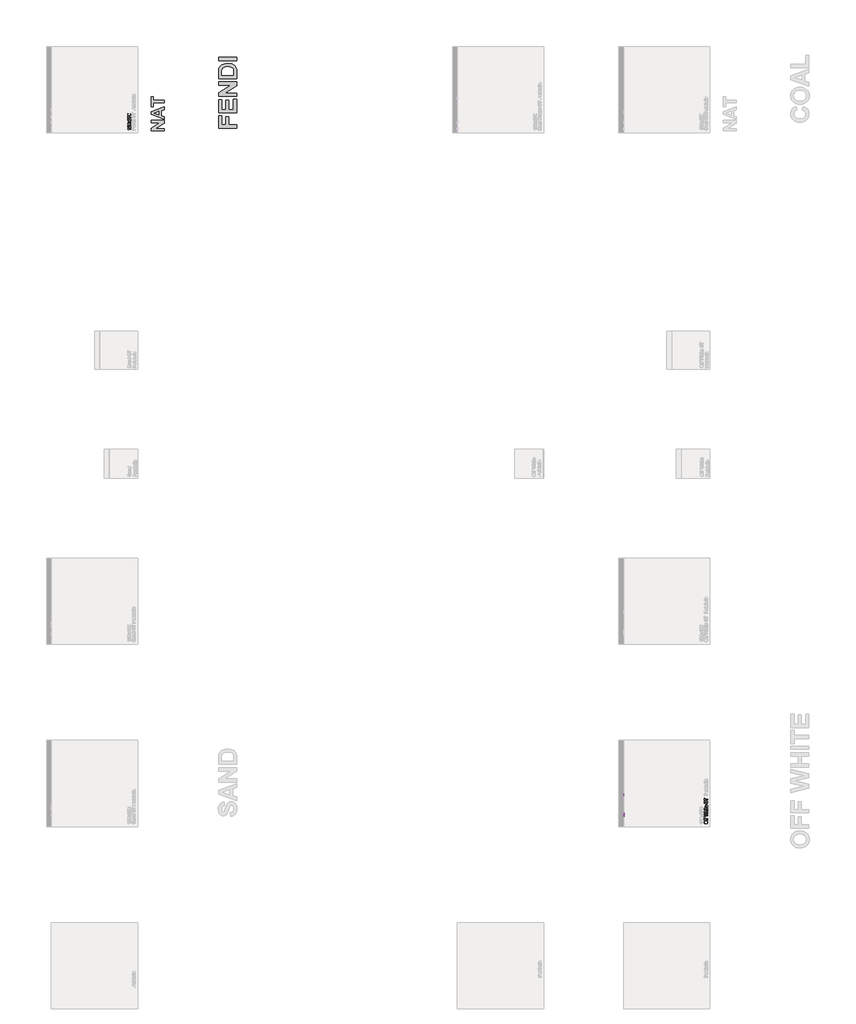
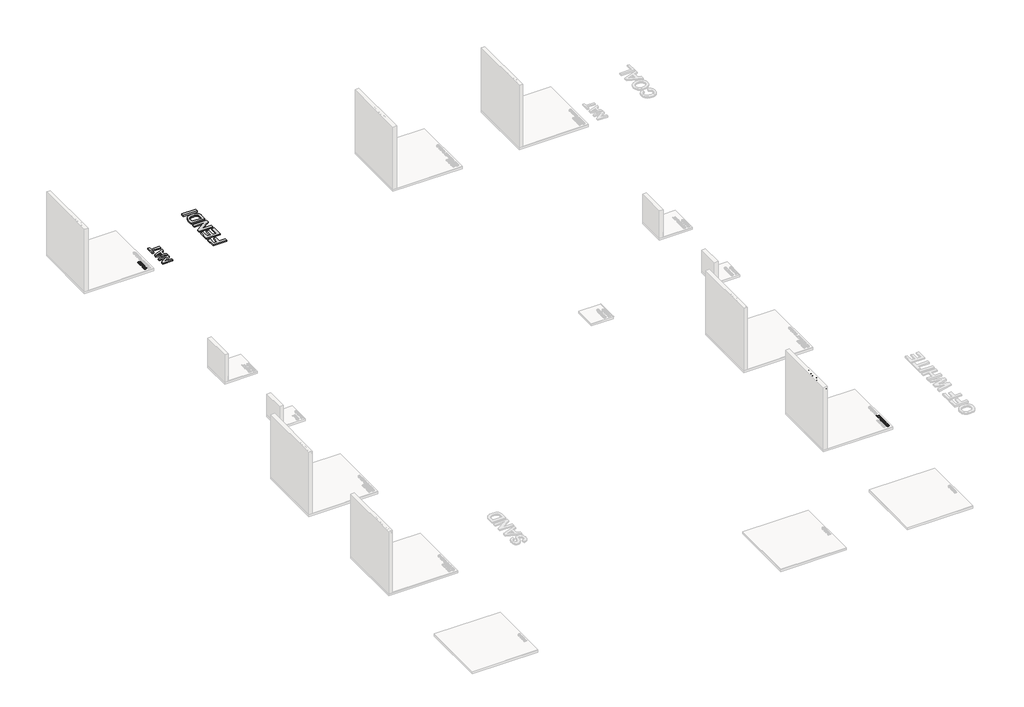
# One storey, part 13 of 19: 7 proxies.
"""IFC4 building model written with IfcOpenShell, lengths in millimetres."""

from ifc_helpers import new_model, si_unit, frame, origin, origin_with_axes, place, context, project, spatial, polyline, outline, extrude, element, save

model = new_model("IFC4")

# Units and contexts
model_context = context("Model", 3, world=origin())
ifc_project = project(units=[si_unit("LENGTHUNIT", "METRE", prefix="MILLI")], contexts=[model_context])

# Site, building, storey
site = spatial("IfcSite", under=ifc_project)
building = spatial("IfcBuilding", under=site)
storey = spatial("IfcBuildingStorey", under=building, Name="PORTOBELLO - SHOWROOM", Elevation=0.0)

# Proxies
placement = place(None, origin())
element("IfcBuildingElementProxy", 1, Name="10mm Arial", ObjectType="10mm Arial", at=placement, inside=storey, context=model_context, shape_type="SweptSolid", body=[
    extrude(outline(polyline([(-6509.7750187, 26132.7257775), (-6509.7750187, 26120.1687387), (-6588.0603073, 26120.1687387), (-6579.5867586, 26108.2738876), (-6573.2469256, 26095.0546612), (-6585.1172513, 26095.0546612), (-6596.8649497, 26113.4610237), (-6610.2313288, 26124.6323736), (-6610.2313288, 26132.7257775), (-6509.7750187, 26132.7257775)])), origin_with_axes(), (0.0, 0.0, 1.0), 20.0),
    extrude(outline(polyline([(-6522.3320575, 26226.9035683), (-6509.7750187, 26226.9035683), (-6509.7750187, 26160.9791147), (-6518.4325083, 26162.3280154), (-6531.7620993, 26169.9676982), (-6546.3179635, 26185.7007848), (-6567.2381863, 26207.3690343), (-6581.4629568, 26212.7768997), (-6592.9776633, 26207.6633399), (-6597.6742901, 26194.3092235), (-6593.0880279, 26180.3910214), (-6580.4083618, 26175.1057834), (-6581.9779916, 26162.5487446), (-6594.1242288, 26165.5929681), (-6602.9963163, 26172.1749901), (-6608.4225757, 26181.9514542), (-6610.2313288, 26194.5790036), (-6608.2202406, 26207.2985236), (-6602.1869759, 26217.0565935), (-6593.173867, 26223.2646022), (-6582.2232463, 26225.3339384), (-6570.3161324, 26223.102121), (-6558.0043483, 26215.6831674), (-6540.7997336, 26197.6937379), (-6528.7209414, 26183.2482382), (-6522.3320575, 26177.5828555), (-6522.3320575, 26226.9035683)])), origin_with_axes(), (0.0, 0.0, 1.0), 20.0),
    extrude(outline(polyline([(-6559.1938334, 26239.4606071), (-6588.0970955, 26243.1516897), (-6604.7621498, 26254.1145732), (-6610.2313288, 26272.4228338), (-6606.9939673, 26287.0890627), (-6597.6620273, 26297.2180803), (-6582.7995947, 26303.1041922), (-6559.1938334, 26305.3850606), (-6530.4131986, 26301.7307661), (-6513.711356, 26290.8046708), (-6509.5818806, 26282.5733112), (-6508.2053888, 26272.4228338), (-6510.5966218, 26259.3752857), (-6517.7703207, 26249.4669973), (-6534.7603375, 26241.9622046), (-6559.1938334, 26239.4606071)]), holes=[polyline([(-6559.2183588, 26252.0176458), (-6539.4661614, 26253.4891738), (-6528.0342284, 26257.9037577), (-6522.5803778, 26264.4765827), (-6520.7624276, 26272.4228338), (-6522.5865092, 26280.3690849), (-6528.0587538, 26286.9419099), (-6539.4968182, 26291.3564938), (-6559.2183588, 26292.8280218), (-6578.5260322, 26291.4055448), (-6590.04687, 26287.1381136), (-6595.7674351, 26280.5775514), (-6597.6742901, 26272.275681), (-6595.9942956, 26264.4152691), (-6590.9543123, 26258.0999615), (-6578.7161046, 26253.5382247), (-6559.2183588, 26252.0176458)])]), origin_with_axes(), (0.0, 0.0, 1.0), 20.0),
    extrude(outline(polyline([(-6509.7750187, 26311.66358), (-6546.8820493, 26338.4944402), (-6583.5476215, 26313.2332098), (-6583.5476215, 26328.2918462), (-6565.8647602, 26340.4810029), (-6557.5506271, 26346.1954366), (-6564.3687068, 26351.1495808), (-6583.5476215, 26365.0309947), (-6583.5476215, 26380.138682), (-6546.8575238, 26353.6021274), (-6509.7750187, 26379.1576634), (-6509.7750187, 26364.0745016), (-6532.0931931, 26348.6725087), (-6536.1889459, 26345.8766055), (-6509.7750187, 26326.7712672), (-6509.7750187, 26311.66358)])), origin_with_axes(), (0.0, 0.0, 1.0), 20.0),
    extrude(outline(polyline([(-6522.3320575, 26451.3606363), (-6509.7750187, 26451.3606363), (-6509.7750187, 26385.4361827), (-6518.4325083, 26386.7850834), (-6531.7620993, 26394.4247662), (-6546.3179635, 26410.1578528), (-6567.2381863, 26431.8261023), (-6581.4629568, 26437.2339677), (-6592.9776633, 26432.1204079), (-6597.6742901, 26418.7662915), (-6593.0880279, 26404.8480893), (-6580.4083618, 26399.5628514), (-6581.9779916, 26387.0058126), (-6594.1242288, 26390.0500361), (-6602.9963163, 26396.6320581), (-6608.4225757, 26406.4085221), (-6610.2313288, 26419.0360716), (-6608.2202406, 26431.7555916), (-6602.1869759, 26441.5136615), (-6593.173867, 26447.7216702), (-6582.2232463, 26449.7910064), (-6570.3161324, 26447.559189), (-6558.0043483, 26440.1402354), (-6540.7997336, 26422.1508059), (-6528.7209414, 26407.7053062), (-6522.3320575, 26402.0399235), (-6522.3320575, 26451.3606363)])), origin_with_axes(), (0.0, 0.0, 1.0), 20.0),
    extrude(outline(polyline([(-6596.1046602, 26463.917675), (-6608.661699, 26463.917675), (-6608.661699, 26529.8421286), (-6598.5081559, 26529.8421286), (-6571.4933547, 26511.1414605), (-6537.0718627, 26496.8308509), (-6509.7750187, 26492.1710123), (-6509.7750187, 26479.6139735), (-6538.1019323, 26484.6049059), (-6570.1199286, 26498.3023789), (-6596.1046602, 26517.2850898), (-6596.1046602, 26463.917675)])), origin_with_axes(), (0.0, 0.0, 1.0), 20.0),
    extrude(outline(polyline([(-6559.1938334, 26540.8295375), (-6588.0970955, 26544.5206202), (-6604.7621498, 26555.4835036), (-6610.2313288, 26573.7917643), (-6606.9939673, 26588.4579931), (-6597.6620273, 26598.5870107), (-6582.7995947, 26604.4731227), (-6559.1938334, 26606.753991), (-6530.4131986, 26603.0996965), (-6513.711356, 26592.1736013), (-6509.5818806, 26583.9422417), (-6508.2053888, 26573.7917643), (-6510.5966218, 26560.7442162), (-6517.7703207, 26550.8359278), (-6534.7603375, 26543.3311351), (-6559.1938334, 26540.8295375)]), holes=[polyline([(-6559.2183588, 26553.3865763), (-6539.4661614, 26554.8581042), (-6528.0342284, 26559.2726882), (-6522.5803778, 26565.8455132), (-6520.7624276, 26573.7917643), (-6522.5865092, 26581.7380154), (-6528.0587538, 26588.3108403), (-6539.4968182, 26592.7254243), (-6559.2183588, 26594.1969523), (-6578.5260322, 26592.7744752), (-6590.04687, 26588.5070441), (-6595.7674351, 26581.9464818), (-6597.6742901, 26573.6446115), (-6595.9942956, 26565.7841995), (-6590.9543123, 26559.4688919), (-6578.7161046, 26554.9071552), (-6559.2183588, 26553.3865763)])]), origin_with_axes(), (0.0, 0.0, 1.0), 20.0),
])
element("IfcBuildingElementProxy", 2, Name="10mm Arial", ObjectType="10mm Arial", at=placement, inside=storey, context=model_context, shape_type="SweptSolid", body=[
    extrude(outline(polyline([(11481.3212014, 4387.4843452), (11459.1072603, 4390.8320713), (11442.3011845, 4400.8752498), (11431.7245771, 4416.2097976), (11428.1990413, 4435.4316319), (11429.8545103, 4448.6079387), (11434.8209172, 4460.4230821), (11442.7487742, 4470.2332686), (11453.2885934, 4477.3947048), (11465.9314713, 4481.7725005), (11480.1685045, 4483.2317658), (11494.5956101, 4481.6958584), (11507.4162976, 4477.0881365), (11517.9745109, 4469.6630515), (11525.6141936, 4459.6750553), (11530.2495068, 4447.9610795), (11531.7946112, 4435.3580555), (11530.0870256, 4421.9794136), (11524.9642688, 4410.0968251), (11516.889259, 4400.3111641), (11506.3249144, 4393.2233043), (11481.3212014, 4387.4843452)]), holes=[polyline([(11481.4438288, 4400.0413839), (11497.1585213, 4402.5521785), (11509.1330803, 4410.0845624), (11516.7114494, 4421.4061308), (11519.2375724, 4435.2844791), (11516.6869239, 4449.3651624), (11509.0349784, 4460.7051249), (11496.6925375, 4468.1823265), (11480.0704026, 4470.674727), (11459.3463836, 4466.4072959), (11445.6243852, 4453.9360962), (11440.7560801, 4435.5052083), (11443.1013278, 4421.9978077), (11450.137071, 4410.5137581), (11462.6542558, 4402.6594775), (11481.4438288, 4400.0413839)])]), origin_with_axes(), (0.0, 0.0, 1.0), 20.0),
    extrude(outline(polyline([(11530.2249813, 4542.8776999), (11469.0094173, 4542.8776999), (11469.0094173, 4531.890291), (11456.4523785, 4531.890291), (11456.4523785, 4542.8776999), (11449.0211622, 4542.8776999), (11438.5487881, 4544.2020751), (11431.0685209, 4550.6277473), (11428.1990413, 4563.2828879), (11429.5724674, 4574.7362807), (11441.3446913, 4572.8968707), (11440.7560801, 4565.6618582), (11442.8407447, 4557.7523953), (11450.6153176, 4555.4347387), (11456.4523785, 4555.4347387), (11456.4523785, 4569.5614073), (11469.0094173, 4569.5614073), (11469.0094173, 4555.4347387), (11530.2249813, 4555.4347387), (11530.2249813, 4542.8776999)])), origin_with_axes(), (0.0, 0.0, 1.0), 20.0),
    extrude(outline(polyline([(11530.2249813, 4502.0673239), (11469.0094173, 4502.0673239), (11469.0094173, 4491.079915), (11456.4523785, 4491.079915), (11456.4523785, 4502.0673239), (11449.0211622, 4502.0673239), (11438.5487881, 4503.3916991), (11431.0685209, 4509.8173713), (11428.1990413, 4522.4725119), (11429.5724674, 4533.9259047), (11441.3446913, 4532.0864947), (11440.7560801, 4524.8514822), (11442.8407447, 4516.9420193), (11450.6153176, 4514.6243627), (11456.4523785, 4514.6243627), (11456.4523785, 4528.7510313), (11469.0094173, 4528.7510313), (11469.0094173, 4514.6243627), (11530.2249813, 4514.6243627), (11530.2249813, 4502.0673239)])), origin_with_axes(), (0.0, 0.0, 1.0), 20.0),
    extrude(outline(polyline([(11530.2249813, 4639.3363591), (11429.7686712, 4611.9414131), (11429.7686712, 4624.8908594), (11495.7912266, 4640.7833616), (11516.1718891, 4645.6884548), (11498.1456713, 4650.9369046), (11429.7686712, 4670.8515833), (11429.7686712, 4689.5154632), (11479.3346386, 4703.9854883), (11516.1718891, 4714.7521681), (11496.3798378, 4719.5101085), (11429.7686712, 4735.5252381), (11429.7686712, 4748.4992098), (11530.2249813, 4721.1287893), (11530.2249813, 4707.6888338), (11452.7245077, 4683.5803003), (11441.908777, 4680.2203115), (11454.9317996, 4676.4433896), (11530.2249813, 4654.4930973), (11530.2249813, 4639.3363591)])), origin_with_axes(), (0.0, 0.0, 1.0), 20.0),
    extrude(outline(polyline([(11530.2249813, 4759.4866187), (11429.7686712, 4759.4866187), (11429.7686712, 4772.0436574), (11466.7040235, 4772.0436574), (11457.8380674, 4781.8354499), (11454.8827487, 4793.895848), (11458.1078475, 4807.9979911), (11467.0228545, 4816.5573789), (11483.5284934, 4819.1325528), (11530.2249813, 4819.1325528), (11530.2249813, 4806.5755141), (11484.8283431, 4806.5755141), (11471.5845913, 4802.577863), (11467.4397875, 4791.2470976), (11470.2356906, 4780.9586645), (11477.8140597, 4774.0915339), (11491.0332861, 4772.0436574), (11530.2249813, 4772.0436574), (11530.2249813, 4759.4866187)])), origin_with_axes(), (0.0, 0.0, 1.0), 20.0),
    extrude(outline(polyline([(11442.3257099, 4836.3984811), (11429.7686712, 4836.3984811), (11429.7686712, 4848.9555199), (11442.3257099, 4848.9555199), (11442.3257099, 4836.3984811)])), origin_with_axes(), (0.0, 0.0, 1.0), 20.0),
    extrude(outline(polyline([(11530.2249813, 4836.3984811), (11456.4523785, 4836.3984811), (11456.4523785, 4848.9555199), (11530.2249813, 4848.9555199), (11530.2249813, 4836.3984811)])), origin_with_axes(), (0.0, 0.0, 1.0), 20.0),
    extrude(outline(polyline([(11519.7526072, 4894.4747854), (11530.5928633, 4896.0444153), (11531.7946112, 4886.6511617), (11529.7099465, 4876.1297366), (11524.2407675, 4870.8812868), (11509.9914716, 4869.3607079), (11469.0094173, 4869.3607079), (11469.0094173, 4859.9429288), (11456.4523785, 4859.9429288), (11456.4523785, 4869.3607079), (11438.5242626, 4869.3607079), (11431.1420973, 4881.9177467), (11456.4523785, 4881.9177467), (11456.4523785, 4894.4747854), (11469.0094173, 4894.4747854), (11469.0094173, 4881.9177467), (11509.6235896, 4881.9177467), (11516.0983127, 4882.5799343), (11518.3914438, 4884.7259126), (11519.2375724, 4889.0056064), (11519.7526072, 4894.4747854)])), origin_with_axes(), (0.0, 0.0, 1.0), 20.0),
    extrude(outline(polyline([(11508.2501635, 4958.6824563), (11509.8197933, 4970.9942404), (11519.096551, 4966.5581967), (11526.0311266, 4959.479534), (11530.35374, 4949.9176678), (11531.7946112, 4938.0320137), (11529.308342, 4923.2983398), (11521.8495346, 4911.9614429), (11509.9025668, 4904.7325617), (11493.9518166, 4902.3229347), (11477.4645718, 4904.7570872), (11465.1343936, 4912.0595448), (11457.4456599, 4923.2431575), (11454.8827487, 4937.3207751), (11457.4395286, 4950.9600001), (11465.1098682, 4961.8585042), (11477.4155209, 4969.004612), (11493.8782402, 4971.3866479), (11497.2627545, 4971.3130715), (11497.2627545, 4914.8799734), (11506.6621395, 4917.0535429), (11513.5721897, 4922.1027233), (11517.8212267, 4929.3898525), (11519.2375724, 4938.2772683), (11516.6133475, 4950.5890524), (11508.2501635, 4958.6824563)]), holes=[polyline([(11484.7057158, 4914.8799734), (11484.7057158, 4958.8296091), (11473.3258994, 4953.8018885), (11468.9113155, 4946.4810368), (11467.4397875, 4937.2717242), (11472.1364143, 4921.8084177), (11477.6270531, 4916.9431783), (11484.7057158, 4914.8799734)])]), origin_with_axes(), (0.0, 0.0, 1.0), 20.0),
    extrude(outline(polyline([(11495.6931247, 5020.0451731), (11495.6931247, 5032.6022119), (11508.2624262, 5036.6489138), (11516.2086773, 5046.5326768), (11519.2375724, 5061.5913131), (11516.9444413, 5074.7124376), (11510.6413964, 5083.1859862), (11502.2168987, 5085.9696267), (11494.3810122, 5083.884962), (11488.6788413, 5075.3500997), (11483.8841127, 5057.0663646), (11477.6914324, 5037.3846778), (11468.3472297, 5026.7038372), (11455.8637674, 5023.1844328), (11441.6512596, 5027.5377031), (11431.6203439, 5040.2541574), (11428.1990413, 5058.8689864), (11431.7797594, 5078.7346141), (11442.3011845, 5091.9783659), (11458.0220084, 5096.9570356), (11458.0220084, 5084.3999968), (11450.5294784, 5082.094603), (11445.1216131, 5077.2876116), (11440.7560801, 5059.3594957), (11445.0725622, 5041.3823289), (11455.4958854, 5035.7414716), (11464.2024259, 5039.7391226), (11471.2167093, 5060.2424125), (11477.5197541, 5082.462485), (11487.6978227, 5094.6148536), (11501.8980677, 5098.5266654), (11516.9199158, 5094.0262424), (11527.8827993, 5081.0767961), (11531.7946112, 5062.0818224), (11527.5762309, 5039.6532835), (11514.8720394, 5025.4653012), (11495.6931247, 5020.0451731)])), origin_with_axes(), (0.0, 0.0, 1.0), 20.0),
    extrude(outline(polyline([(11530.2249813, 5142.4763011), (11442.3257099, 5142.4763011), (11442.3257099, 5109.5140744), (11429.7686712, 5109.5140744), (11429.7686712, 5187.9955667), (11442.3257099, 5187.9955667), (11442.3257099, 5155.0333399), (11530.2249813, 5155.0333399), (11530.2249813, 5142.4763011)])), origin_with_axes(), (0.0, 0.0, 1.0), 20.0),
])
element("IfcBuildingElementProxy", 3, Name="10mm Arial", ObjectType="10mm Arial", at=placement, inside=storey, context=model_context, shape_type="SweptSolid", body=[
    extrude(outline(polyline([(4384.1273431, 2565.0933702), (4387.4750692, 2587.3073114), (4397.5182477, 2604.1133872), (4412.8527955, 2614.6899946), (4432.0746298, 2618.2155303), (4445.2509366, 2616.5600614), (4457.06608, 2611.5936544), (4466.8762665, 2603.6657974), (4474.0377027, 2593.1259783), (4478.4154984, 2580.4831004), (4479.8747637, 2566.2460672), (4478.3388564, 2551.8189616), (4473.7311344, 2538.998274), (4466.3060494, 2528.4400608), (4456.3180533, 2520.800378), (4444.6040774, 2516.1650649), (4432.0010534, 2514.6199605), (4418.6224115, 2516.3275461), (4406.739823, 2521.4503029), (4396.954162, 2529.5253127), (4389.8663022, 2540.0896573), (4384.1273431, 2565.0933702)]), holes=[polyline([(4396.6843818, 2564.9707429), (4399.1951765, 2549.2560503), (4406.7275603, 2537.2814914), (4418.0491287, 2529.7031223), (4431.927477, 2527.1769993), (4446.0081603, 2529.7276478), (4457.3481228, 2537.3795933), (4464.8253244, 2549.7220342), (4467.3177249, 2566.344169), (4463.0502938, 2587.0681881), (4450.5790941, 2600.7901865), (4432.1482062, 2605.6584916), (4418.6408056, 2603.3132439), (4407.156756, 2596.2775007), (4399.3024754, 2583.7603158), (4396.6843818, 2564.9707429)])]), frame((8905.7966975, 0.0, 0.0), z_axis=(1.0, 0.0, 0.0), x_axis=(0.0, 1.0, 0.0)), (0.0, 0.0, 1.0), 20.0),
    extrude(outline(polyline([(4539.5206978, 2516.1895903), (4539.5206978, 2577.4051543), (4528.5332889, 2577.4051543), (4528.5332889, 2589.9621931), (4539.5206978, 2589.9621931), (4539.5206978, 2597.3934094), (4540.845073, 2607.8657835), (4547.2707452, 2615.3460508), (4559.9258858, 2618.2155303), (4571.3792786, 2616.8421042), (4569.5398686, 2605.0698804), (4562.3048561, 2605.6584916), (4554.3953932, 2603.5738269), (4552.0777366, 2595.7992541), (4552.0777366, 2589.9621931), (4566.2044052, 2589.9621931), (4566.2044052, 2577.4051543), (4552.0777366, 2577.4051543), (4552.0777366, 2516.1895903), (4539.5206978, 2516.1895903)])), frame((8905.7966975, 0.0, 0.0), z_axis=(1.0, 0.0, 0.0), x_axis=(0.0, 1.0, 0.0)), (0.0, 0.0, 1.0), 20.0),
    extrude(outline(polyline([(4498.7103218, 2516.1895903), (4498.7103218, 2577.4051543), (4487.7229129, 2577.4051543), (4487.7229129, 2589.9621931), (4498.7103218, 2589.9621931), (4498.7103218, 2597.3934094), (4500.034697, 2607.8657835), (4506.4603692, 2615.3460508), (4519.1155098, 2618.2155303), (4530.5689026, 2616.8421042), (4528.7294926, 2605.0698804), (4521.4944801, 2605.6584916), (4513.5850172, 2603.5738269), (4511.2673606, 2595.7992541), (4511.2673606, 2589.9621931), (4525.3940292, 2589.9621931), (4525.3940292, 2577.4051543), (4511.2673606, 2577.4051543), (4511.2673606, 2516.1895903), (4498.7103218, 2516.1895903)])), frame((8905.7966975, 0.0, 0.0), z_axis=(1.0, 0.0, 0.0), x_axis=(0.0, 1.0, 0.0)), (0.0, 0.0, 1.0), 20.0),
    extrude(outline(polyline([(4635.979357, 2516.1895903), (4608.5844111, 2616.6459005), (4621.5338573, 2616.6459005), (4637.4263595, 2550.6233451), (4642.3314528, 2530.2426826), (4647.5799026, 2548.2689003), (4667.4945812, 2616.6459005), (4686.1584611, 2616.6459005), (4700.6284863, 2567.079933), (4711.395166, 2530.2426826), (4716.1531065, 2550.0347339), (4732.168236, 2616.6459005), (4745.1422077, 2616.6459005), (4717.7717872, 2516.1895903), (4704.3318317, 2516.1895903), (4680.2232983, 2593.690064), (4676.8633094, 2604.5057947), (4673.0863876, 2591.482772), (4651.1360952, 2516.1895903), (4635.979357, 2516.1895903)])), frame((8905.7966975, 0.0, 0.0), z_axis=(1.0, 0.0, 0.0), x_axis=(0.0, 1.0, 0.0)), (0.0, 0.0, 1.0), 20.0),
    extrude(outline(polyline([(4756.1296166, 2516.1895903), (4756.1296166, 2616.6459005), (4768.6866554, 2616.6459005), (4768.6866554, 2579.7105482), (4778.4784478, 2588.5765043), (4790.5388459, 2591.531823), (4804.640989, 2588.3067241), (4813.2003768, 2579.3917171), (4815.7755507, 2562.8860783), (4815.7755507, 2516.1895903), (4803.218512, 2516.1895903), (4803.218512, 2561.5862285), (4799.220861, 2574.8299804), (4787.8900955, 2578.9747842), (4777.6016624, 2576.178881), (4770.7345318, 2568.6005119), (4768.6866554, 2555.3812856), (4768.6866554, 2516.1895903), (4756.1296166, 2516.1895903)])), frame((8905.7966975, 0.0, 0.0), z_axis=(1.0, 0.0, 0.0), x_axis=(0.0, 1.0, 0.0)), (0.0, 0.0, 1.0), 20.0),
    extrude(outline(polyline([(8925.7966975, 4845.5985178), (8925.7966975, 4833.0414791), (8905.7966975, 4833.0414791), (8905.7966975, 4845.5985178), (8925.7966975, 4845.5985178)])), frame((0.0, 0.0, 2604.0888617), z_axis=(0.0, 0.0, 1.0), x_axis=(1.0, 0.0, 0.0)), (0.0, 0.0, 1.0), 12.5570388),
    extrude(outline(polyline([(8925.7966975, 4845.5985178), (8925.7966975, 4833.0414791), (8905.7966975, 4833.0414791), (8905.7966975, 4845.5985178), (8925.7966975, 4845.5985178)])), frame((0.0, 0.0, 2516.1895903), z_axis=(0.0, 0.0, 1.0), x_axis=(1.0, 0.0, 0.0)), (0.0, 0.0, 1.0), 73.7726028),
    extrude(outline(polyline([(4891.1177834, 2526.6619645), (4892.6874132, 2515.8217083), (4883.2941596, 2514.6199605), (4872.7727345, 2516.7046251), (4867.5242847, 2522.1738041), (4866.0037058, 2536.4231001), (4866.0037058, 2577.4051543), (4856.5859267, 2577.4051543), (4856.5859267, 2589.9621931), (4866.0037058, 2589.9621931), (4866.0037058, 2607.890309), (4878.5607446, 2615.2724744), (4878.5607446, 2589.9621931), (4891.1177834, 2589.9621931), (4891.1177834, 2577.4051543), (4878.5607446, 2577.4051543), (4878.5607446, 2536.7909821), (4879.2229322, 2530.316259), (4881.3689105, 2528.0231279), (4885.6486044, 2527.1769993), (4891.1177834, 2526.6619645)])), frame((8905.7966975, 0.0, 0.0), z_axis=(1.0, 0.0, 0.0), x_axis=(0.0, 1.0, 0.0)), (0.0, 0.0, 1.0), 20.0),
    extrude(outline(polyline([(4955.3254543, 2538.1644082), (4967.6372384, 2536.5947783), (4963.2011946, 2527.3180207), (4956.1225319, 2520.3834451), (4946.5606657, 2516.0608316), (4934.6750116, 2514.6199605), (4919.9413377, 2517.1062296), (4908.6044409, 2524.5650371), (4901.3755597, 2536.5120049), (4898.9659326, 2552.4627551), (4901.4000851, 2568.9499998), (4908.7025427, 2581.280178), (4919.8861554, 2588.9689117), (4933.9637731, 2591.531823), (4947.602998, 2588.9750431), (4958.5015021, 2581.3047035), (4965.6476099, 2568.9990508), (4968.0296458, 2552.5363315), (4967.9560694, 2549.1518171), (4911.5229714, 2549.1518171), (4913.6965408, 2539.7524321), (4918.7457212, 2532.842382), (4926.0328504, 2528.5933449), (4934.9202663, 2527.1769993), (4947.2320504, 2529.8012242), (4955.3254543, 2538.1644082)]), holes=[polyline([(4911.5229714, 2561.7088559), (4955.472607, 2561.7088559), (4950.4448864, 2573.0886723), (4943.1240347, 2577.5032562), (4933.9147221, 2578.9747842), (4918.4514156, 2574.2781574), (4913.5861762, 2568.7875186), (4911.5229714, 2561.7088559)])]), frame((8905.7966975, 0.0, 0.0), z_axis=(1.0, 0.0, 0.0), x_axis=(0.0, 1.0, 0.0)), (0.0, 0.0, 1.0), 20.0),
    extrude(outline(polyline([(5016.688171, 2550.721447), (5029.2452098, 2550.721447), (5033.2919118, 2538.1521455), (5043.1756747, 2530.2058944), (5058.234311, 2527.1769993), (5071.3554355, 2529.4701304), (5079.8289842, 2535.7731752), (5082.6126246, 2544.1976729), (5080.5279599, 2552.0335594), (5071.9930977, 2557.7357303), (5053.7093625, 2562.530459), (5034.0276758, 2568.7231393), (5023.3468352, 2578.0673419), (5019.8274307, 2590.5508043), (5024.180701, 2604.763312), (5036.8971553, 2614.7942278), (5055.5119843, 2618.2155303), (5075.377612, 2614.6348123), (5088.6213638, 2604.1133872), (5093.6000335, 2588.3925633), (5081.0429947, 2588.3925633), (5078.7376009, 2595.8850932), (5073.9306095, 2601.2929586), (5056.0024936, 2605.6584916), (5038.0253268, 2601.3420095), (5032.3844695, 2590.9186863), (5036.3821205, 2582.2121457), (5056.8854104, 2575.1978624), (5079.1054829, 2568.8948175), (5091.2578515, 2558.716749), (5095.1696634, 2544.516504), (5090.6692403, 2529.4946558), (5077.719794, 2518.5317724), (5058.7248204, 2514.6199605), (5036.2962814, 2518.8383407), (5022.1082991, 2531.5425323), (5016.688171, 2550.721447)])), frame((8905.7966975, 0.0, 0.0), z_axis=(1.0, 0.0, 0.0), x_axis=(0.0, 1.0, 0.0)), (0.0, 0.0, 1.0), 20.0),
    extrude(outline(polyline([(5139.119299, 2516.1895903), (5139.119299, 2604.0888617), (5106.1570723, 2604.0888617), (5106.1570723, 2616.6459005), (5184.6385646, 2616.6459005), (5184.6385646, 2604.0888617), (5151.6763378, 2604.0888617), (5151.6763378, 2516.1895903), (5139.119299, 2516.1895903)])), frame((8905.7966975, 0.0, 0.0), z_axis=(1.0, 0.0, 0.0), x_axis=(0.0, 1.0, 0.0)), (0.0, 0.0, 1.0), 20.0),
])
element("IfcBuildingElementProxy", 4, Name="10mm Arial", ObjectType="10mm Arial", at=placement, inside=storey, context=model_context, shape_type="SweptSolid", body=[
    extrude(outline(polyline([(4431.2162385, 2381.1895903), (4418.6591997, 2381.1895903), (4418.6591997, 2459.4748789), (4406.7643485, 2451.0013303), (4393.5451221, 2444.6614972), (4393.5451221, 2456.531823), (4411.9514846, 2468.2795213), (4423.1228346, 2481.6459005), (4431.2162385, 2481.6459005), (4431.2162385, 2381.1895903)])), frame((8905.7966975, 0.0, 0.0), z_axis=(1.0, 0.0, 0.0), x_axis=(0.0, 1.0, 0.0)), (0.0, 0.0, 1.0), 20.0),
    extrude(outline(polyline([(4525.3940292, 2393.7466291), (4525.3940292, 2381.1895903), (4459.4695757, 2381.1895903), (4460.8184763, 2389.84708), (4468.4581591, 2403.1766709), (4484.1912458, 2417.7325352), (4505.8594953, 2438.652758), (4511.2673606, 2452.8775285), (4506.1538009, 2464.3922349), (4492.7996844, 2469.0888617), (4478.8814823, 2464.5025995), (4473.5962443, 2451.8229334), (4461.0392055, 2453.3925633), (4464.083429, 2465.5388005), (4470.6654511, 2474.4108879), (4480.4419151, 2479.8371473), (4493.0694646, 2481.6459005), (4505.7889846, 2479.6348123), (4515.5470545, 2473.6015475), (4521.7550632, 2464.5884386), (4523.8243994, 2453.6378179), (4521.5925819, 2441.730704), (4514.1736284, 2429.4189199), (4496.1841988, 2412.2143053), (4481.7386991, 2400.1355131), (4476.0733164, 2393.7466291), (4525.3940292, 2393.7466291)])), frame((8905.7966975, 0.0, 0.0), z_axis=(1.0, 0.0, 0.0), x_axis=(0.0, 1.0, 0.0)), (0.0, 0.0, 1.0), 20.0),
    extrude(outline(polyline([(4537.951068, 2430.608405), (4541.6421507, 2459.5116671), (4552.6050341, 2476.1767215), (4570.9132948, 2481.6459005), (4585.5795236, 2478.4085389), (4595.7085412, 2469.076599), (4601.5946532, 2454.2141664), (4603.8755215, 2430.608405), (4600.221227, 2401.8277703), (4589.2951318, 2385.1259277), (4581.0637721, 2380.9964523), (4570.9132948, 2379.6199605), (4557.8657467, 2382.0111935), (4547.9574583, 2389.1848924), (4540.4526656, 2406.1749092), (4537.951068, 2430.608405)]), holes=[polyline([(4550.5081068, 2430.6329305), (4551.9796347, 2410.880733), (4556.3942187, 2399.4488), (4562.9670437, 2393.9949495), (4570.9132948, 2392.1769993), (4578.8595459, 2394.0010808), (4585.4323708, 2399.4733255), (4589.8469548, 2410.9113899), (4591.3184828, 2430.6329305), (4589.8960057, 2449.9406039), (4585.6285746, 2461.4614417), (4579.0680123, 2467.1820067), (4570.766142, 2469.0888617), (4562.90573, 2467.4088673), (4556.5904224, 2462.3688839), (4552.0286857, 2450.1306762), (4550.5081068, 2430.6329305)])]), frame((8905.7966975, 0.0, 0.0), z_axis=(1.0, 0.0, 0.0), x_axis=(0.0, 1.0, 0.0)), (0.0, 0.0, 1.0), 20.0),
    extrude(outline(polyline([(4610.1540409, 2381.1895903), (4636.9849011, 2418.2966209), (4611.7236708, 2454.9621931), (4626.7823071, 2454.9621931), (4638.9714639, 2437.2793319), (4644.6858975, 2428.9651988), (4649.6400417, 2435.7832784), (4663.5214557, 2454.9621931), (4678.6291429, 2454.9621931), (4652.0925884, 2418.2720955), (4677.6481243, 2381.1895903), (4662.5649625, 2381.1895903), (4647.1629696, 2403.5077647), (4644.3670665, 2407.6035176), (4625.2617282, 2381.1895903), (4610.1540409, 2381.1895903)])), frame((8905.7966975, 0.0, 0.0), z_axis=(1.0, 0.0, 0.0), x_axis=(0.0, 1.0, 0.0)), (0.0, 0.0, 1.0), 20.0),
    extrude(outline(polyline([(4749.8510972, 2393.7466291), (4749.8510972, 2381.1895903), (4683.9266437, 2381.1895903), (4685.2755443, 2389.84708), (4692.9152271, 2403.1766709), (4708.6483138, 2417.7325352), (4730.3165633, 2438.652758), (4735.7244286, 2452.8775285), (4730.6108689, 2464.3922349), (4717.2567524, 2469.0888617), (4703.3385503, 2464.5025995), (4698.0533123, 2451.8229334), (4685.4962735, 2453.3925633), (4688.540497, 2465.5388005), (4695.1225191, 2474.4108879), (4704.8989831, 2479.8371473), (4717.5265326, 2481.6459005), (4730.2460526, 2479.6348123), (4740.0041225, 2473.6015475), (4746.2121311, 2464.5884386), (4748.2814674, 2453.6378179), (4746.0496499, 2441.730704), (4738.6306964, 2429.4189199), (4720.6412668, 2412.2143053), (4706.1957671, 2400.1355131), (4700.5303844, 2393.7466291), (4749.8510972, 2393.7466291)])), frame((8905.7966975, 0.0, 0.0), z_axis=(1.0, 0.0, 0.0), x_axis=(0.0, 1.0, 0.0)), (0.0, 0.0, 1.0), 20.0),
    extrude(outline(polyline([(4762.408136, 2467.5192319), (4762.408136, 2480.0762706), (4828.3325895, 2480.0762706), (4828.3325895, 2469.9227276), (4809.6319214, 2442.9079264), (4795.3213118, 2408.4864344), (4790.6614732, 2381.1895903), (4778.1044344, 2381.1895903), (4783.0953668, 2409.516504), (4796.7928398, 2441.5345003), (4815.7755507, 2467.5192319), (4762.408136, 2467.5192319)])), frame((8905.7966975, 0.0, 0.0), z_axis=(1.0, 0.0, 0.0), x_axis=(0.0, 1.0, 0.0)), (0.0, 0.0, 1.0), 20.0),
    extrude(outline(polyline([(4839.3199984, 2430.608405), (4843.0110811, 2459.5116671), (4853.9739646, 2476.1767215), (4872.2822252, 2481.6459005), (4886.9484541, 2478.4085389), (4897.0774717, 2469.076599), (4902.9635836, 2454.2141664), (4905.244452, 2430.608405), (4901.5901575, 2401.8277703), (4890.6640622, 2385.1259277), (4882.4327026, 2380.9964523), (4872.2822252, 2379.6199605), (4859.2346771, 2382.0111935), (4849.3263887, 2389.1848924), (4841.821596, 2406.1749092), (4839.3199984, 2430.608405)]), holes=[polyline([(4851.8770372, 2430.6329305), (4853.3485652, 2410.880733), (4857.7631491, 2399.4488), (4864.3359741, 2393.9949495), (4872.2822252, 2392.1769993), (4880.2284763, 2394.0010808), (4886.8013013, 2399.4733255), (4891.2158852, 2410.9113899), (4892.6874132, 2430.6329305), (4891.2649362, 2449.9406039), (4886.997505, 2461.4614417), (4880.4369428, 2467.1820067), (4872.1350724, 2469.0888617), (4864.2746604, 2467.4088673), (4857.9593529, 2462.3688839), (4853.3976161, 2450.1306762), (4851.8770372, 2430.6329305)])]), frame((8905.7966975, 0.0, 0.0), z_axis=(1.0, 0.0, 0.0), x_axis=(0.0, 1.0, 0.0)), (0.0, 0.0, 1.0), 20.0),
])
element("IfcBuildingElementProxy", 5, Name="10mm Arial Narrow", ObjectType="10mm Arial Narrow", at=placement, inside=storey, context=model_context, shape_type="SweptSolid", body=[
    extrude(outline(polyline([(5272.6220562, 2516.1895903), (5272.6220562, 2616.9081941), (5303.9189409, 2616.9081941), (5320.2146424, 2615.0298734), (5331.6876285, 2605.5494302), (5335.9773069, 2588.5303214), (5334.1909985, 2576.4544958), (5328.8320733, 2566.8281021), (5319.0882845, 2560.5268436), (5304.1473853, 2558.4264242), (5282.3690178, 2558.4264242), (5282.3690178, 2516.1895903), (5272.6220562, 2516.1895903)]), holes=[polyline([(5282.3690178, 2569.7978794), (5305.3403728, 2569.7978794), (5321.2045682, 2574.3286936), (5326.2303453, 2587.9972844), (5323.7555308, 2598.1630608), (5317.777902, 2603.9630106), (5305.1119283, 2605.5367388), (5282.3690178, 2605.5367388), (5282.3690178, 2569.7978794)])]), frame((8905.7966975, 0.0, 0.0), z_axis=(1.0, 0.0, 0.0), x_axis=(0.0, 1.0, 0.0)), (0.0, 0.0, 1.0), 20.0),
    extrude(outline(polyline([(5344.099775, 2552.7406965), (5346.0542438, 2569.3314721), (5351.9176505, 2581.2835569), (5360.7762172, 2588.5081115), (5371.7161663, 2590.9162964), (5382.5292019, 2588.5081115), (5391.4131513, 2581.2835569), (5397.3527061, 2569.5218424), (5399.3325577, 2553.5021779), (5397.3876073, 2536.3402913), (5391.5527562, 2524.1978362), (5382.703708, 2516.9732816), (5371.7161663, 2514.5650967), (5360.8555381, 2516.9796273), (5351.9811072, 2524.2232189), (5346.070108, 2536.1816494), (5344.099775, 2552.7406965)]), holes=[polyline([(5353.8467366, 2552.7660793), (5355.1507735, 2540.2143279), (5359.0628841, 2531.3430698), (5364.9040808, 2526.0698112), (5371.9953762, 2524.3120584), (5378.7154493, 2526.0856754), (5384.4075226, 2531.4065266), (5388.2910777, 2540.2936488), (5389.585596, 2552.7660793), (5388.2815591, 2565.2797566), (5384.3694486, 2574.1383233), (5378.5282518, 2579.4115818), (5371.4369565, 2581.1693347), (5364.6692907, 2579.4020633), (5358.9867359, 2574.1002492), (5355.1317364, 2565.232164), (5353.8467366, 2552.7660793)])]), frame((8905.7966975, 0.0, 0.0), z_axis=(1.0, 0.0, 0.0), x_axis=(0.0, 1.0, 0.0)), (0.0, 0.0, 1.0), 20.0),
    extrude(outline(polyline([(5470.8102765, 2524.3120584), (5472.4347701, 2514.5650967), (5465.0737834, 2514.5650967), (5456.7990191, 2516.6845532), (5452.4839579, 2522.4845031), (5451.3163532, 2537.1303283), (5451.3163532, 2579.5448411), (5443.1938851, 2579.5448411), (5443.1938851, 2582.7938283), (5441.5693915, 2577.9203475), (5434.0053431, 2579.5448411), (5427.9261835, 2577.2223229), (5424.0553198, 2570.7370398), (5422.0754682, 2555.3297332), (5422.0754682, 2516.1895903), (5412.3285065, 2516.1895903), (5412.3285065, 2589.2918027), (5422.0754682, 2589.2918027), (5422.0754682, 2579.5956065), (5428.3196155, 2588.6826176), (5434.7160591, 2590.9162964), (5443.1938851, 2589.2918027), (5451.3163532, 2589.2918027), (5451.3163532, 2605.5367388), (5461.0633148, 2613.6592069), (5461.0633148, 2589.2918027), (5470.8102765, 2589.2918027), (5470.8102765, 2579.5448411), (5461.0633148, 2579.5448411), (5461.0633148, 2534.8966496), (5461.926327, 2526.9010951), (5466.5459807, 2524.3120584), (5470.8102765, 2524.3120584)])), frame((8905.7966975, 0.0, 0.0), z_axis=(1.0, 0.0, 0.0), x_axis=(0.0, 1.0, 0.0)), (0.0, 0.0, 1.0), 20.0),
    extrude(outline(polyline([(5477.3082509, 2552.7406965), (5479.2627198, 2569.3314721), (5485.1261264, 2581.2835569), (5493.9846931, 2588.5081115), (5504.9246422, 2590.9162964), (5515.7376778, 2588.5081115), (5524.6216273, 2581.2835569), (5530.561182, 2569.5218424), (5532.5410336, 2553.5021779), (5530.5960832, 2536.3402913), (5524.7612322, 2524.1978362), (5515.912184, 2516.9732816), (5504.9246422, 2514.5650967), (5494.0640141, 2516.9796273), (5485.1895832, 2524.2232189), (5479.278584, 2536.1816494), (5477.3082509, 2552.7406965)]), holes=[polyline([(5487.0552125, 2552.7660793), (5488.3592494, 2540.2143279), (5492.27136, 2531.3430698), (5498.1125567, 2526.0698112), (5505.2038521, 2524.3120584), (5511.9239253, 2526.0856754), (5517.6159986, 2531.4065266), (5521.4995536, 2540.2936488), (5522.7940719, 2552.7660793), (5521.4900351, 2565.2797566), (5517.5779245, 2574.1383233), (5511.7367277, 2579.4115818), (5504.6454324, 2581.1693347), (5497.8777666, 2579.4020633), (5492.1952119, 2574.1002492), (5488.3402124, 2565.232164), (5487.0552125, 2552.7660793)])]), frame((8905.7966975, 0.0, 0.0), z_axis=(1.0, 0.0, 0.0), x_axis=(0.0, 1.0, 0.0)), (0.0, 0.0, 1.0), 20.0),
    extrude(outline(polyline([(5555.2839441, 2516.1895903), (5545.5369825, 2516.1895903), (5545.5369825, 2616.9081941), (5555.2839441, 2616.9081941), (5555.2839441, 2581.49931), (5562.6830049, 2588.5810868), (5571.8842382, 2590.9162964), (5584.7659649, 2586.7154574), (5594.0433463, 2573.986027), (5597.520778, 2553.2991162), (5595.588519, 2536.8447728), (5589.791742, 2524.6420337), (5581.4186196, 2517.084331), (5571.7573246, 2514.5650967), (5562.4164864, 2517.1795161), (5555.2839441, 2524.9466262), (5555.2839441, 2516.1895903)]), holes=[polyline([(5555.2839441, 2553.2991162), (5557.3653266, 2536.051563), (5563.2541159, 2527.3199098), (5571.7065592, 2524.3120584), (5577.6492868, 2526.1015396), (5582.8876441, 2531.4699834), (5587.7738163, 2552.8929928), (5583.0653231, 2574.3286936), (5577.8206201, 2579.4591744), (5571.5034975, 2581.1693347), (5565.5258687, 2579.3798535), (5560.2335731, 2574.0114097), (5555.2839441, 2553.2991162)])]), frame((8905.7966975, 0.0, 0.0), z_axis=(1.0, 0.0, 0.0), x_axis=(0.0, 1.0, 0.0)), (0.0, 0.0, 1.0), 20.0),
    extrude(outline(polyline([(5649.5045734, 2538.9325009), (5659.2515351, 2537.3080073), (5655.5520047, 2527.4214407), (5649.7330179, 2520.3015898), (5642.0293646, 2515.99922), (5632.675835, 2514.5650967), (5621.082281, 2516.9796273), (5611.9381587, 2524.2232189), (5605.998604, 2536.0293531), (5604.0187524, 2552.1315114), (5606.0081225, 2568.7984351), (5611.9762328, 2580.9789644), (5620.9902686, 2588.4319634), (5632.1174153, 2590.9162964), (5642.8003645, 2588.51763), (5651.5478818, 2581.321631), (5657.3827329, 2569.5821264), (5659.3276832, 2553.5529433), (5659.2515351, 2550.3039561), (5613.765714, 2550.3039561), (5619.7687256, 2530.8607982), (5625.6987618, 2525.9492434), (5632.8027485, 2524.3120584), (5642.9812163, 2527.967169), (5649.5045734, 2538.9325009)]), holes=[polyline([(5614.4256646, 2560.0509178), (5649.5045734, 2560.0509178), (5645.2402777, 2574.3160023), (5639.4149452, 2579.4560016), (5632.1935634, 2581.1693347), (5619.9844786, 2575.4582244), (5614.4256646, 2560.0509178)])]), frame((8905.7966975, 0.0, 0.0), z_axis=(1.0, 0.0, 0.0), x_axis=(0.0, 1.0, 0.0)), (0.0, 0.0, 1.0), 20.0),
    extrude(outline(polyline([(8925.7966975, 5681.9944456), (8925.7966975, 5672.247484), (8905.7966975, 5672.247484), (8905.7966975, 5681.9944456), (8925.7966975, 5681.9944456)])), frame((0.0, 0.0, 2516.1895903), z_axis=(0.0, 0.0, 1.0), x_axis=(1.0, 0.0, 0.0)), (0.0, 0.0, 1.0), 100.7186038),
    extrude(outline(polyline([(8925.7966975, 5707.9863434), (8925.7966975, 5698.2393817), (8905.7966975, 5698.2393817), (8905.7966975, 5707.9863434), (8925.7966975, 5707.9863434)])), frame((0.0, 0.0, 2516.1895903), z_axis=(0.0, 0.0, 1.0), x_axis=(1.0, 0.0, 0.0)), (0.0, 0.0, 1.0), 100.7186038),
    extrude(outline(polyline([(5719.3577986, 2552.7406965), (5721.3122675, 2569.3314721), (5727.1756741, 2581.2835569), (5736.0342408, 2588.5081115), (5746.97419, 2590.9162964), (5757.7872256, 2588.5081115), (5766.671175, 2581.2835569), (5772.6107297, 2569.5218424), (5774.5905813, 2553.5021779), (5772.645631, 2536.3402913), (5766.8107799, 2524.1978362), (5757.9617317, 2516.9732816), (5746.97419, 2514.5650967), (5736.1135618, 2516.9796273), (5727.2391309, 2524.2232189), (5721.3281317, 2536.1816494), (5719.3577986, 2552.7406965)]), holes=[polyline([(5729.1047603, 2552.7660793), (5730.4087971, 2540.2143279), (5734.3209077, 2531.3430698), (5740.1621045, 2526.0698112), (5747.2533998, 2524.3120584), (5753.973473, 2526.0856754), (5759.6655463, 2531.4065266), (5763.5491013, 2540.2936488), (5764.8436197, 2552.7660793), (5763.5395828, 2565.2797566), (5759.6274722, 2574.1383233), (5753.7862755, 2579.4115818), (5746.6949801, 2581.1693347), (5739.9273144, 2579.4020633), (5734.2447596, 2574.1002492), (5730.3897601, 2565.232164), (5729.1047603, 2552.7660793)])]), frame((8905.7966975, 0.0, 0.0), z_axis=(1.0, 0.0, 0.0), x_axis=(0.0, 1.0, 0.0)), (0.0, 0.0, 1.0), 20.0),
])
element("IfcBuildingElementProxy", 6, Name="400mm Arial", ObjectType="400mm Arial", at=placement, inside=storey, context=model_context, shape_type="SweptSolid", body=[
    extrude(outline(polyline([(-5467.7161443, 26060.6618967), (-5875.8199043, 26060.6618967), (-5875.8199043, 26142.140946), (-5601.1191095, 26313.2975577), (-5875.8199043, 26313.2975577), (-5875.8199043, 26391.0316072), (-5467.7161443, 26391.0316072), (-5467.7161443, 26307.0221526), (-5738.3682907, 26138.3959463), (-5467.7161443, 26138.3959463), (-5467.7161443, 26060.6618967)])), origin_with_axes(), (0.0, 0.0, 1.0), 50.0),
    extrude(outline(polyline([(-5467.7161443, 26812.0910421), (-5467.7161443, 26730.4095604), (-5558.4058688, 26698.4252379), (-5558.4058688, 26544.3741658), (-5467.7161443, 26512.7947082), (-5467.7161443, 26429.898632), (-5875.8199043, 26578.6864611), (-5875.8199043, 26661.6837536), (-5467.7161443, 26812.0910421)]), holes=[polyline([(-5629.6620808, 26673.5260502), (-5778.6523424, 26620.994837), (-5629.6620808, 26569.1721374), (-5629.6620808, 26673.5260502)])]), origin_with_axes(), (0.0, 0.0, 1.0), 50.0),
    extrude(outline(polyline([(-5467.7161443, 26941.6477913), (-5804.5636923, 26941.6477913), (-5804.5636923, 26825.046717), (-5875.8199043, 26825.046717), (-5875.8199043, 27135.9829151), (-5804.5636923, 27135.9829151), (-5804.5636923, 27019.3818408), (-5467.7161443, 27019.3818408), (-5467.7161443, 26941.6477913)])), origin_with_axes(), (0.0, 0.0, 1.0), 50.0),
])
element("IfcBuildingElementProxy", 7, Name="550mm Arial", ObjectType="550mm Arial", at=placement, inside=storey, context=model_context, shape_type="SweptSolid", body=[
    extrude(outline(polyline([(-3200.2115519, 26152.2855121), (-3761.3542219, 26152.2855121), (-3761.3542219, 26535.2876519), (-3663.3769303, 26535.2876519), (-3663.3769303, 26259.1698302), (-3538.6785592, 26259.1698302), (-3538.6785592, 26499.6595459), (-3440.7012676, 26499.6595459), (-3440.7012676, 26259.1698302), (-3200.2115519, 26259.1698302), (-3200.2115519, 26152.2855121)])), origin_with_axes(), (0.0, 0.0, 1.0), 50.0),
    extrude(outline(polyline([(-3200.2115519, 26624.357917), (-3761.3542219, 26624.357917), (-3761.3542219, 27042.9881629), (-3663.3769303, 27042.9881629), (-3663.3769303, 26731.2422351), (-3538.6785592, 26731.2422351), (-3538.6785592, 27025.1741099), (-3440.7012676, 27025.1741099), (-3440.7012676, 26731.2422351), (-3298.1888435, 26731.2422351), (-3298.1888435, 27051.8951894), (-3200.2115519, 27051.8951894), (-3200.2115519, 26624.357917)])), origin_with_axes(), (0.0, 0.0, 1.0), 50.0),
    extrude(outline(polyline([(-3200.2115519, 27140.9654545), (-3761.3542219, 27140.9654545), (-3761.3542219, 27252.9991472), (-3383.6406291, 27488.3394882), (-3761.3542219, 27488.3394882), (-3761.3542219, 27595.2238063), (-3200.2115519, 27595.2238063), (-3200.2115519, 27479.7108063), (-3572.3582532, 27247.8497725), (-3200.2115519, 27247.8497725), (-3200.2115519, 27140.9654545)])), origin_with_axes(), (0.0, 0.0, 1.0), 50.0),
    extrude(outline(polyline([(-3761.3542219, 27702.1081244), (-3761.3542219, 27909.8923522), (-3758.6751553, 27971.8240209), (-3750.6379556, 28017.0550148), (-3741.9266402, 28040.940459), (-3730.4057841, 28063.0514564), (-3716.0753875, 28083.3880072), (-3698.9354502, 28101.9501112), (-3657.6708665, 28133.0725144), (-3608.0559454, 28155.740201), (-3547.9857061, 28169.5704473), (-3475.3551676, 28174.1805293), (-3410.9183978, 28169.8661884), (-3355.9453435, 28156.9231655), (-3326.7887489, 28145.2152966), (-3300.5547724, 28131.2458781), (-3277.243414, 28115.0149099), (-3256.8546736, 28096.522392), (-3231.3165586, 28061.7989058), (-3212.0411965, 28016.637498), (-3203.1689631, 27972.6938477), (-3200.2115519, 27916.0159329), (-3200.2115519, 27702.1081244), (-3761.3542219, 27702.1081244)]), holes=[polyline([(-3663.3769303, 27808.9924425), (-3298.1888435, 27808.9924425), (-3298.1888435, 27900.0111196), (-3299.5109803, 27943.989563), (-3303.4773905, 27973.7724329), (-3312.5409858, 28000.8936328), (-3326.3712321, 28022.9698371), (-3347.7863681, 28040.7317005), (-3379.6046327, 28054.9098775), (-3423.3743176, 28064.1996278), (-3480.6437146, 28067.2962112), (-3537.112871, 28064.1996278), (-3578.7601785, 28054.9098775), (-3609.2389098, 28040.0706322), (-3632.2023375, 28020.3255636), (-3648.2767369, 27995.1179828), (-3658.0883833, 27963.8912004), (-3662.0547936, 27926.0711308), (-3663.3769303, 27863.8263245), (-3663.3769303, 27808.9924425)])]), origin_with_axes(), (0.0, 0.0, 1.0), 50.0),
    extrude(outline(polyline([(-3200.2115519, 28263.2507944), (-3761.3542219, 28263.2507944), (-3761.3542219, 28370.1351125), (-3200.2115519, 28370.1351125), (-3200.2115519, 28263.2507944)])), origin_with_axes(), (0.0, 0.0, 1.0), 50.0),
])

save(model, "model.ifc")
